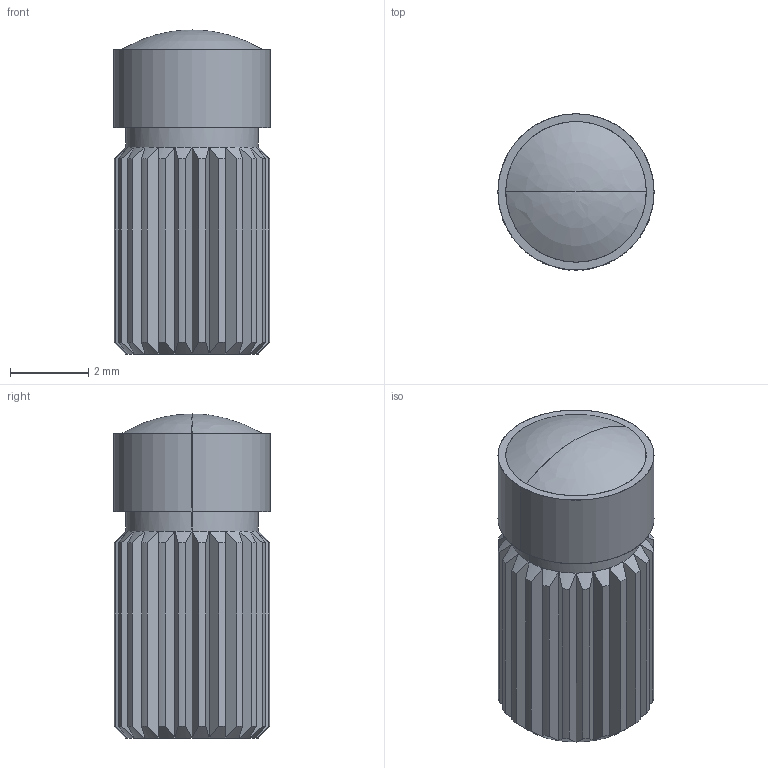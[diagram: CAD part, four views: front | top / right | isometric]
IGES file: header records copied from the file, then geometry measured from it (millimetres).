
Start section: SolidWorks IGES file using analytic representation for surfaces
Bounding box: 4 x 4 x 8.3 mm (x, y, z)
Surface area: 232.2 mm2 (no closed solid volume)
Topology: 0 solids, 0 shells, 152 faces, 1192 edges, 1190 vertices
Faces by surface type: revolution 96, bspline 56
